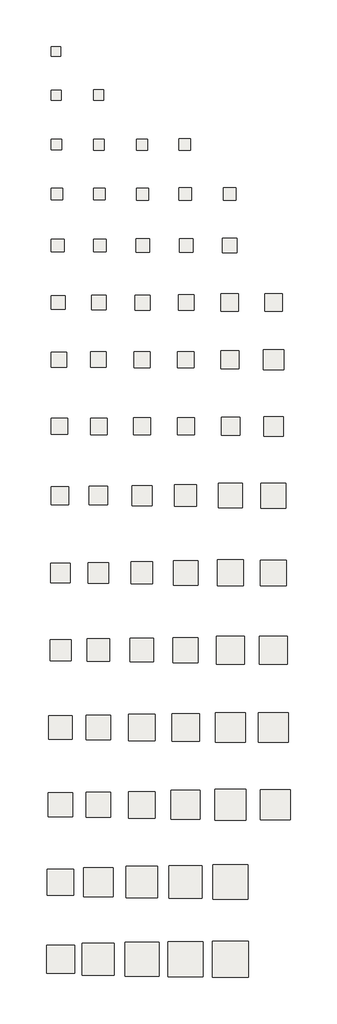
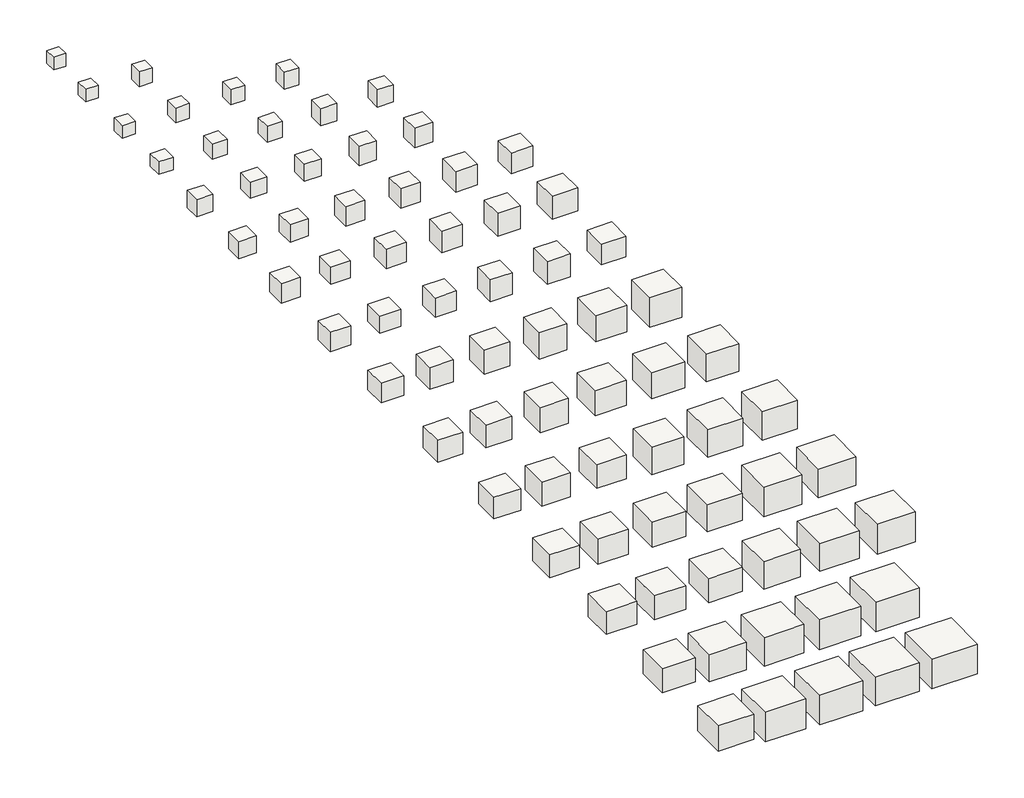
# One storey: 75 slabs.
"""IFC4 building model written with IfcOpenShell, lengths in millimetres."""

from ifc_helpers import new_model, si_unit, frame, origin, place, context, project, spatial, polyline, outline, extrude, transform, mapped, element, save
from components import sh151h_05a4cf6c, sh171h_3b6ec63e, sh172h_2c039d42, sh201h_967e3658, sh202h_af07e2a0, sh203h_214d91b7, sh204h_f7182780, sh251h_bfb0af9b, sh252h_e3db69f3, sh253h_e0c43a48, sh254h_d4b0e25d, sh255h_3842edd7, sh301h_2fa1b9bb, sh302h_2cdbd7e4, sh303h_fd9c4a22, sh304h_efbd32dc, sh305h_3eef8231, sh351h_a3a2fe4a, sh352h_ad2891c9, sh353h_d71c6902, sh354h_d327f54e, sh355h_837e37f4, sh402h_118434c7, sh403h_8080ce22, sh404h_aaa08fc3, sh451h_d6b55bf2, sh452h_b81ecc12, sh453h_2a0722a9, sh454h_7828ca22, sh455h_6269cbd8, sh456h_0ef26143, sh551h_472f291d, sh601h_b4ec754e, sh651h_6f82ec02, sh701h_66dc8db6, sh751h_26a283a2, sh801h_a61c9dea

model = new_model("IFC4")

# Units and contexts
model_context = context("Model", 3, world=origin())
ifc_project = project(units=[si_unit("LENGTHUNIT", "METRE", prefix="MILLI")], contexts=[model_context])

# Site, building, storey
site = spatial("IfcSite", under=ifc_project)
building = spatial("IfcBuilding", under=site)
storey = spatial("IfcBuildingStorey", under=building, Name="レベル 1", Elevation=0.0)

# Slabs
placement = place(None, origin())
sh151h_shape = sh151h_05a4cf6c(model_context)
element("IfcSlab", 1, ObjectType="柱形_SH : SH151H", at=placement, inside=storey, context=model_context, shape_type="MappedRepresentation", body=[
    mapped(sh151h_shape, transform((-18374.1210172, 22289.5887732, 0.0), x_axis=(1.0, 0.0, 0.0), y_axis=(0.0, 1.0, 0.0), z_axis=(0.0, 0.0, 1.0))),
])
sh171h_shape = sh171h_3b6ec63e(model_context)
element("IfcSlab", 2, ObjectType="柱形_SH : SH171H", at=placement, inside=storey, context=model_context, shape_type="MappedRepresentation", body=[
    mapped(sh171h_shape, transform((-18364.1210172, 19989.5887732, 0.0), x_axis=(1.0, 0.0, 0.0), y_axis=(0.0, 1.0, 0.0), z_axis=(0.0, 0.0, 1.0))),
])
sh172h_shape = sh172h_2c039d42(model_context)
element("IfcSlab", 3, ObjectType="柱形_SH : SH172H", at=placement, inside=storey, context=model_context, shape_type="MappedRepresentation", body=[
    mapped(sh172h_shape, transform((-16140.7168251, 19989.5887732, 0.0), x_axis=(1.0, 0.0, 0.0), y_axis=(0.0, 1.0, 0.0), z_axis=(0.0, 0.0, 1.0))),
])
sh201h_shape = sh201h_967e3658(model_context)
element("IfcSlab", 4, ObjectType="柱形_SH : SH201H", at=placement, inside=storey, context=model_context, shape_type="MappedRepresentation", body=[
    mapped(sh201h_shape, transform((-18349.1210172, 17389.5887732, 0.0), x_axis=(1.0, 0.0, 0.0), y_axis=(0.0, 1.0, 0.0), z_axis=(0.0, 0.0, 1.0))),
])
sh202h_shape = sh202h_af07e2a0(model_context)
element("IfcSlab", 5, ObjectType="柱形_SH : SH202H", at=placement, inside=storey, context=model_context, shape_type="MappedRepresentation", body=[
    mapped(sh202h_shape, transform((-16125.7168251, 17389.5887732, 0.0), x_axis=(1.0, 0.0, 0.0), y_axis=(0.0, 1.0, 0.0), z_axis=(0.0, 0.0, 1.0))),
])
sh203h_shape = sh203h_214d91b7(model_context)
element("IfcSlab", 6, ObjectType="柱形_SH : SH203H", at=placement, inside=storey, context=model_context, shape_type="MappedRepresentation", body=[
    mapped(sh203h_shape, transform((-13842.3126329, 17389.5887732, 0.0), x_axis=(1.0, 0.0, 0.0), y_axis=(0.0, 1.0, 0.0), z_axis=(0.0, 0.0, 1.0))),
])
sh204h_shape = sh204h_f7182780(model_context)
element("IfcSlab", 7, ObjectType="柱形_SH : SH204H", at=placement, inside=storey, context=model_context, shape_type="MappedRepresentation", body=[
    mapped(sh204h_shape, transform((-11608.9084407, 17389.5887732, 0.0), x_axis=(1.0, 0.0, 0.0), y_axis=(0.0, 1.0, 0.0), z_axis=(0.0, 0.0, 1.0))),
])
sh251h_shape = sh251h_bfb0af9b(model_context)
element("IfcSlab", 8, ObjectType="柱形_SH : SH251H", at=placement, inside=storey, context=model_context, shape_type="MappedRepresentation", body=[
    mapped(sh251h_shape, transform((-18324.1210172, 14789.5887732, 0.0), x_axis=(1.0, 0.0, 0.0), y_axis=(0.0, 1.0, 0.0), z_axis=(0.0, 0.0, 1.0))),
])
sh252h_shape = sh252h_e3db69f3(model_context)
element("IfcSlab", 9, ObjectType="柱形_SH : SH252H", at=placement, inside=storey, context=model_context, shape_type="MappedRepresentation", body=[
    mapped(sh252h_shape, transform((-16100.7168251, 14789.5887732, 0.0), x_axis=(1.0, 0.0, 0.0), y_axis=(0.0, 1.0, 0.0), z_axis=(0.0, 0.0, 1.0))),
])
sh253h_shape = sh253h_e0c43a48(model_context)
element("IfcSlab", 10, ObjectType="柱形_SH : SH253H", at=placement, inside=storey, context=model_context, shape_type="MappedRepresentation", body=[
    mapped(sh253h_shape, transform((-13817.3126329, 14789.5887732, 0.0), x_axis=(1.0, 0.0, 0.0), y_axis=(0.0, 1.0, 0.0), z_axis=(0.0, 0.0, 1.0))),
])
sh254h_shape = sh254h_d4b0e25d(model_context)
element("IfcSlab", 11, ObjectType="柱形_SH : SH254H", at=placement, inside=storey, context=model_context, shape_type="MappedRepresentation", body=[
    mapped(sh254h_shape, transform((-11583.9084407, 14789.5887732, 0.0), x_axis=(1.0, 0.0, 0.0), y_axis=(0.0, 1.0, 0.0), z_axis=(0.0, 0.0, 1.0))),
])
sh255h_shape = sh255h_3842edd7(model_context)
element("IfcSlab", 12, ObjectType="柱形_SH : SH255H", at=placement, inside=storey, context=model_context, shape_type="MappedRepresentation", body=[
    mapped(sh255h_shape, transform((-9240.5042486, 14789.5887732, 0.0), x_axis=(1.0, 0.0, 0.0), y_axis=(0.0, 1.0, 0.0), z_axis=(0.0, 0.0, 1.0))),
])
sh301h_shape = sh301h_2fa1b9bb(model_context)
element("IfcSlab", 13, ObjectType="柱形_SH : SH301H", at=placement, inside=storey, context=model_context, shape_type="MappedRepresentation", body=[
    mapped(sh301h_shape, transform((-18289.1210172, 12089.5887732, 0.0), x_axis=(1.0, 0.0, 0.0), y_axis=(0.0, 1.0, 0.0), z_axis=(0.0, 0.0, 1.0))),
])
sh302h_shape = sh302h_2cdbd7e4(model_context)
element("IfcSlab", 14, ObjectType="柱形_SH : SH302H", at=placement, inside=storey, context=model_context, shape_type="MappedRepresentation", body=[
    mapped(sh302h_shape, transform((-16070.7168251, 12089.5887732, 0.0), x_axis=(1.0, 0.0, 0.0), y_axis=(0.0, 1.0, 0.0), z_axis=(0.0, 0.0, 1.0))),
])
sh303h_shape = sh303h_fd9c4a22(model_context)
element("IfcSlab", 15, ObjectType="柱形_SH : SH303H", at=placement, inside=storey, context=model_context, shape_type="MappedRepresentation", body=[
    mapped(sh303h_shape, transform((-13817.3126329, 12089.5887732, 0.0), x_axis=(1.0, 0.0, 0.0), y_axis=(0.0, 1.0, 0.0), z_axis=(0.0, 0.0, 1.0))),
])
sh304h_shape = sh304h_efbd32dc(model_context)
element("IfcSlab", 16, ObjectType="柱形_SH : SH304H", at=placement, inside=storey, context=model_context, shape_type="MappedRepresentation", body=[
    mapped(sh304h_shape, transform((-11536.4084407, 12089.5887732, 0.0), x_axis=(1.0, 0.0, 0.0), y_axis=(0.0, 1.0, 0.0), z_axis=(0.0, 0.0, 1.0))),
])
sh305h_shape = sh305h_3eef8231(model_context)
element("IfcSlab", 17, ObjectType="柱形_SH : SH305H", at=placement, inside=storey, context=model_context, shape_type="MappedRepresentation", body=[
    mapped(sh305h_shape, transform((-9236.4084407, 12089.5887732, 0.0), x_axis=(1.0, 0.0, 0.0), y_axis=(0.0, 1.0, 0.0), z_axis=(0.0, 0.0, 1.0))),
])
sh351h_shape = sh351h_a3a2fe4a(model_context)
element("IfcSlab", 18, ObjectType="柱形_SH : SH351H", at=placement, inside=storey, context=model_context, shape_type="MappedRepresentation", body=[
    mapped(sh351h_shape, transform((-18264.1210172, 9089.5887732, 0.0), x_axis=(1.0, 0.0, 0.0), y_axis=(0.0, 1.0, 0.0), z_axis=(0.0, 0.0, 1.0))),
])
sh352h_shape = sh352h_ad2891c9(model_context)
element("IfcSlab", 19, ObjectType="柱形_SH : SH352H", at=placement, inside=storey, context=model_context, shape_type="MappedRepresentation", body=[
    mapped(sh352h_shape, transform((-16130.7168251, 9089.5887732, 0.0), x_axis=(1.0, 0.0, 0.0), y_axis=(0.0, 1.0, 0.0), z_axis=(0.0, 0.0, 1.0))),
])
sh353h_shape = sh353h_d71c6902(model_context)
element("IfcSlab", 20, ObjectType="柱形_SH : SH353H", at=placement, inside=storey, context=model_context, shape_type="MappedRepresentation", body=[
    mapped(sh353h_shape, transform((-13817.3126329, 9089.5887732, 0.0), x_axis=(1.0, 0.0, 0.0), y_axis=(0.0, 1.0, 0.0), z_axis=(0.0, 0.0, 1.0))),
])
sh354h_shape = sh354h_d327f54e(model_context)
element("IfcSlab", 21, ObjectType="柱形_SH : SH354H", at=placement, inside=storey, context=model_context, shape_type="MappedRepresentation", body=[
    mapped(sh354h_shape, transform((-11536.4084407, 9089.5887732, 0.0), x_axis=(1.0, 0.0, 0.0), y_axis=(0.0, 1.0, 0.0), z_axis=(0.0, 0.0, 1.0))),
])
sh355h_shape = sh355h_837e37f4(model_context)
element("IfcSlab", 22, ObjectType="柱形_SH : SH355H", at=placement, inside=storey, context=model_context, shape_type="MappedRepresentation", body=[
    mapped(sh355h_shape, transform((-9236.4084407, 9089.5887732, 0.0), x_axis=(1.0, 0.0, 0.0), y_axis=(0.0, 1.0, 0.0), z_axis=(0.0, 0.0, 1.0))),
])
element("IfcSlab", 23, ObjectType="柱形_SH : SH356H", at=placement, inside=storey, context=model_context, shape_type="MappedRepresentation", body=[
    mapped(sh355h_shape, transform((-6936.4084407, 9089.5887732, 0.0), x_axis=(1.0, 0.0, 0.0), y_axis=(0.0, 1.0, 0.0), z_axis=(0.0, 0.0, 1.0))),
])
element("IfcSlab", 24, ObjectType="柱形_SH : SH401H", at=placement, inside=storey, context=model_context, shape_type="SweptSolid", body=[
    extrude(outline(polyline([(-17826.0106955, 6489.5887732), (-17826.0106955, 5689.5887732), (-18626.0106955, 5689.5887732), (-18626.0106955, 6489.5887732), (-17826.0106955, 6489.5887732)])), frame((0.0, 0.0, -850.0), z_axis=(0.0, 0.0, 1.0), x_axis=(1.0, 0.0, 0.0)), (0.0, 0.0, 1.0), 850.0),
])
sh402h_shape = sh402h_118434c7(model_context)
element("IfcSlab", 25, ObjectType="柱形_SH : SH402H", at=placement, inside=storey, context=model_context, shape_type="MappedRepresentation", body=[
    mapped(sh402h_shape, transform((-16159.2265438, 6089.5887732, 0.0), x_axis=(1.0, 0.0, 0.0), y_axis=(0.0, 1.0, 0.0), z_axis=(0.0, 0.0, 1.0))),
])
sh403h_shape = sh403h_8080ce22(model_context)
element("IfcSlab", 26, ObjectType="柱形_SH : SH403H", at=placement, inside=storey, context=model_context, shape_type="MappedRepresentation", body=[
    mapped(sh403h_shape, transform((-13859.2265438, 6089.5887732, 0.0), x_axis=(1.0, 0.0, 0.0), y_axis=(0.0, 1.0, 0.0), z_axis=(0.0, 0.0, 1.0))),
])
sh404h_shape = sh404h_aaa08fc3(model_context)
element("IfcSlab", 27, ObjectType="柱形_SH : SH404H", at=placement, inside=storey, context=model_context, shape_type="MappedRepresentation", body=[
    mapped(sh404h_shape, transform((-11559.2265438, 6089.5887732, 0.0), x_axis=(1.0, 0.0, 0.0), y_axis=(0.0, 1.0, 0.0), z_axis=(0.0, 0.0, 1.0))),
])
element("IfcSlab", 28, ObjectType="柱形_SH : SH405H", at=placement, inside=storey, context=model_context, shape_type="SweptSolid", body=[
    extrude(outline(polyline([(-8749.2265438, 6559.5887732), (-8749.2265438, 5619.5887732), (-9689.2265438, 5619.5887732), (-9689.2265438, 6559.5887732), (-8749.2265438, 6559.5887732)])), frame((0.0, 0.0, -1000.0), z_axis=(0.0, 0.0, 1.0), x_axis=(1.0, 0.0, 0.0)), (0.0, 0.0, 1.0), 1000.0),
])
element("IfcSlab", 29, ObjectType="柱形_SH : SH406H", at=placement, inside=storey, context=model_context, shape_type="SweptSolid", body=[
    extrude(outline(polyline([(-6401.2999676, 6619.5887732), (-6401.2999676, 5559.5887732), (-7461.2999676, 5559.5887732), (-7461.2999676, 6619.5887732), (-6401.2999676, 6619.5887732)])), frame((0.0, 0.0, -1000.0), z_axis=(0.0, 0.0, 1.0), x_axis=(1.0, 0.0, 0.0)), (0.0, 0.0, 1.0), 1000.0),
])
sh451h_shape = sh451h_d6b55bf2(model_context)
element("IfcSlab", 30, ObjectType="柱形_SH : SH451H", at=placement, inside=storey, context=model_context, shape_type="MappedRepresentation", body=[
    mapped(sh451h_shape, transform((-18199.1210172, 2589.5887732, 0.0), x_axis=(1.0, 0.0, 0.0), y_axis=(0.0, 1.0, 0.0), z_axis=(0.0, 0.0, 1.0))),
])
sh452h_shape = sh452h_b81ecc12(model_context)
element("IfcSlab", 31, ObjectType="柱形_SH : SH452H", at=placement, inside=storey, context=model_context, shape_type="MappedRepresentation", body=[
    mapped(sh452h_shape, transform((-16132.3368655, 2589.5887732, 0.0), x_axis=(1.0, 0.0, 0.0), y_axis=(0.0, 1.0, 0.0), z_axis=(0.0, 0.0, 1.0))),
])
sh453h_shape = sh453h_2a0722a9(model_context)
element("IfcSlab", 32, ObjectType="柱形_SH : SH453H", at=placement, inside=storey, context=model_context, shape_type="MappedRepresentation", body=[
    mapped(sh453h_shape, transform((-13844.2265438, 2589.5887732, 0.0), x_axis=(1.0, 0.0, 0.0), y_axis=(0.0, 1.0, 0.0), z_axis=(0.0, 0.0, 1.0))),
])
sh454h_shape = sh454h_7828ca22(model_context)
element("IfcSlab", 33, ObjectType="柱形_SH : SH454H", at=placement, inside=storey, context=model_context, shape_type="MappedRepresentation", body=[
    mapped(sh454h_shape, transform((-11544.2265438, 2589.5887732, 0.0), x_axis=(1.0, 0.0, 0.0), y_axis=(0.0, 1.0, 0.0), z_axis=(0.0, 0.0, 1.0))),
])
sh455h_shape = sh455h_6269cbd8(model_context)
element("IfcSlab", 34, ObjectType="柱形_SH : SH455H", at=placement, inside=storey, context=model_context, shape_type="MappedRepresentation", body=[
    mapped(sh455h_shape, transform((-9184.2265438, 2589.5887732, 0.0), x_axis=(1.0, 0.0, 0.0), y_axis=(0.0, 1.0, 0.0), z_axis=(0.0, 0.0, 1.0))),
])
sh456h_shape = sh456h_0ef26143(model_context)
element("IfcSlab", 35, ObjectType="柱形_SH : SH456H", at=placement, inside=storey, context=model_context, shape_type="MappedRepresentation", body=[
    mapped(sh456h_shape, transform((-6924.2265438, 2589.5887732, 0.0), x_axis=(1.0, 0.0, 0.0), y_axis=(0.0, 1.0, 0.0), z_axis=(0.0, 0.0, 1.0))),
])
element("IfcSlab", 36, ObjectType="柱形_SH : SH501H", at=placement, inside=storey, context=model_context, shape_type="SweptSolid", body=[
    extrude(outline(polyline([(-17704.1210172, -580.4112268), (-17704.1210172, -1520.4112268), (-18644.1210172, -1520.4112268), (-18644.1210172, -580.4112268), (-17704.1210172, -580.4112268)])), frame((0.0, 0.0, -850.0), z_axis=(0.0, 0.0, 1.0), x_axis=(1.0, 0.0, 0.0)), (0.0, 0.0, 1.0), 850.0),
])
element("IfcSlab", 37, ObjectType="柱形_SH : SH502H", at=placement, inside=storey, context=model_context, shape_type="SweptSolid", body=[
    extrude(outline(polyline([(-15665.8055027, -565.4112268), (-15665.8055027, -1535.4112268), (-16635.8055027, -1535.4112268), (-16635.8055027, -565.4112268), (-15665.8055027, -565.4112268)])), frame((0.0, 0.0, -950.0), z_axis=(0.0, 0.0, 1.0), x_axis=(1.0, 0.0, 0.0)), (0.0, 0.0, 1.0), 950.0),
])
element("IfcSlab", 38, ObjectType="柱形_SH : SH503H", at=placement, inside=storey, context=model_context, shape_type="SweptSolid", body=[
    extrude(outline(polyline([(-13337.695181, -525.4112268), (-13337.695181, -1575.4112268), (-14387.695181, -1575.4112268), (-14387.695181, -525.4112268), (-13337.695181, -525.4112268)])), frame((0.0, 0.0, -1050.0), z_axis=(0.0, 0.0, 1.0), x_axis=(1.0, 0.0, 0.0)), (0.0, 0.0, 1.0), 1050.0),
])
element("IfcSlab", 39, ObjectType="柱形_SH : SH504H", at=placement, inside=storey, context=model_context, shape_type="SweptSolid", body=[
    extrude(outline(polyline([(-10992.695181, -480.4112268), (-10992.695181, -1620.4112268), (-12132.695181, -1620.4112268), (-12132.695181, -480.4112268), (-10992.695181, -480.4112268)])), frame((0.0, 0.0, -1150.0), z_axis=(0.0, 0.0, 1.0), x_axis=(1.0, 0.0, 0.0)), (0.0, 0.0, 1.0), 1150.0),
])
element("IfcSlab", 40, ObjectType="柱形_SH : SH505H", at=placement, inside=storey, context=model_context, shape_type="SweptSolid", body=[
    extrude(outline(polyline([(-8562.695181, -410.4112268), (-8562.695181, -1690.4112268), (-9842.695181, -1690.4112268), (-9842.695181, -410.4112268), (-8562.695181, -410.4112268)])), frame((0.0, 0.0, -1150.0), z_axis=(0.0, 0.0, 1.0), x_axis=(1.0, 0.0, 0.0)), (0.0, 0.0, 1.0), 1150.0),
])
element("IfcSlab", 41, ObjectType="柱形_SH : SH506H", at=placement, inside=storey, context=model_context, shape_type="SweptSolid", body=[
    extrude(outline(polyline([(-6287.695181, -395.4112268), (-6287.695181, -1705.4112268), (-7597.695181, -1705.4112268), (-7597.695181, -395.4112268), (-6287.695181, -395.4112268)])), frame((0.0, 0.0, -1300.0), z_axis=(0.0, 0.0, 1.0), x_axis=(1.0, 0.0, 0.0)), (0.0, 0.0, 1.0), 1300.0),
])
sh551h_shape = sh551h_472f291d(model_context)
element("IfcSlab", 42, ObjectType="柱形_SH : SH551H", at=placement, inside=storey, context=model_context, shape_type="MappedRepresentation", body=[
    mapped(sh551h_shape, transform((-18144.1210172, -5110.4112268, 0.0), x_axis=(1.0, 0.0, 0.0), y_axis=(0.0, 1.0, 0.0), z_axis=(0.0, 0.0, 1.0))),
])
element("IfcSlab", 43, ObjectType="柱形_SH : SH552H", at=placement, inside=storey, context=model_context, shape_type="SweptSolid", body=[
    extrude(outline(polyline([(-15605.8055027, -4565.4112268), (-15605.8055027, -5655.4112268), (-16695.8055027, -5655.4112268), (-16695.8055027, -4565.4112268), (-15605.8055027, -4565.4112268)])), frame((0.0, 0.0, -1000.0), z_axis=(0.0, 0.0, 1.0), x_axis=(1.0, 0.0, 0.0)), (0.0, 0.0, 1.0), 1000.0),
])
element("IfcSlab", 44, ObjectType="柱形_SH : SH553H", at=placement, inside=storey, context=model_context, shape_type="SweptSolid", body=[
    extrude(outline(polyline([(-13287.695181, -4535.4112268), (-13287.695181, -5685.4112268), (-14437.695181, -5685.4112268), (-14437.695181, -4535.4112268), (-13287.695181, -4535.4112268)])), frame((0.0, 0.0, -1100.0), z_axis=(0.0, 0.0, 1.0), x_axis=(1.0, 0.0, 0.0)), (0.0, 0.0, 1.0), 1100.0),
])
element("IfcSlab", 45, ObjectType="柱形_SH : SH554H", at=placement, inside=storey, context=model_context, shape_type="SweptSolid", body=[
    extrude(outline(polyline([(-10922.695181, -4470.4112268), (-10922.695181, -5750.4112268), (-12202.695181, -5750.4112268), (-12202.695181, -4470.4112268), (-10922.695181, -4470.4112268)])), frame((0.0, 0.0, -1100.0), z_axis=(0.0, 0.0, 1.0), x_axis=(1.0, 0.0, 0.0)), (0.0, 0.0, 1.0), 1100.0),
])
element("IfcSlab", 46, ObjectType="柱形_SH : SH555H", at=placement, inside=storey, context=model_context, shape_type="SweptSolid", body=[
    extrude(outline(polyline([(-8522.695181, -4430.4112268), (-8522.695181, -5790.4112268), (-9882.695181, -5790.4112268), (-9882.695181, -4430.4112268), (-8522.695181, -4430.4112268)])), frame((0.0, 0.0, -1150.0), z_axis=(0.0, 0.0, 1.0), x_axis=(1.0, 0.0, 0.0)), (0.0, 0.0, 1.0), 1150.0),
])
element("IfcSlab", 47, ObjectType="柱形_SH : SH556H", at=placement, inside=storey, context=model_context, shape_type="SweptSolid", body=[
    extrude(outline(polyline([(-6267.695181, -4435.4112268), (-6267.695181, -5785.4112268), (-7617.695181, -5785.4112268), (-7617.695181, -4435.4112268), (-6267.695181, -4435.4112268)])), frame((0.0, 0.0, -1200.0), z_axis=(0.0, 0.0, 1.0), x_axis=(1.0, 0.0, 0.0)), (0.0, 0.0, 1.0), 1200.0),
])
sh601h_shape = sh601h_b4ec754e(model_context)
element("IfcSlab", 48, ObjectType="柱形_SH : SH601H", at=placement, inside=storey, context=model_context, shape_type="MappedRepresentation", body=[
    mapped(sh601h_shape, transform((-18144.1210172, -9170.4112268, 0.0), x_axis=(1.0, 0.0, 0.0), y_axis=(0.0, 1.0, 0.0), z_axis=(0.0, 0.0, 1.0))),
])
element("IfcSlab", 49, ObjectType="柱形_SH : SH602H", at=placement, inside=storey, context=model_context, shape_type="SweptSolid", body=[
    extrude(outline(polyline([(-15560.8055027, -8580.4112268), (-15560.8055027, -9760.4112268), (-16740.8055027, -9760.4112268), (-16740.8055027, -8580.4112268), (-15560.8055027, -8580.4112268)])), frame((0.0, 0.0, -1050.0), z_axis=(0.0, 0.0, 1.0), x_axis=(1.0, 0.0, 0.0)), (0.0, 0.0, 1.0), 1050.0),
])
element("IfcSlab", 50, ObjectType="柱形_SH : SH603H", at=placement, inside=storey, context=model_context, shape_type="SweptSolid", body=[
    extrude(outline(polyline([(-13247.695181, -8555.4112268), (-13247.695181, -9785.4112268), (-14477.695181, -9785.4112268), (-14477.695181, -8555.4112268), (-13247.695181, -8555.4112268)])), frame((0.0, 0.0, -1050.0), z_axis=(0.0, 0.0, 1.0), x_axis=(1.0, 0.0, 0.0)), (0.0, 0.0, 1.0), 1050.0),
])
element("IfcSlab", 51, ObjectType="柱形_SH : SH604H", at=placement, inside=storey, context=model_context, shape_type="SweptSolid", body=[
    extrude(outline(polyline([(-10897.695181, -8505.4112268), (-10897.695181, -9835.4112268), (-12227.695181, -9835.4112268), (-12227.695181, -8505.4112268), (-10897.695181, -8505.4112268)])), frame((0.0, 0.0, -1200.0), z_axis=(0.0, 0.0, 1.0), x_axis=(1.0, 0.0, 0.0)), (0.0, 0.0, 1.0), 1200.0),
])
element("IfcSlab", 52, ObjectType="柱形_SH : SH605H", at=placement, inside=storey, context=model_context, shape_type="SweptSolid", body=[
    extrude(outline(polyline([(-8472.695181, -8440.4112268), (-8472.695181, -9900.4112268), (-9932.695181, -9900.4112268), (-9932.695181, -8440.4112268), (-8472.695181, -8440.4112268)])), frame((0.0, 0.0, -1200.0), z_axis=(0.0, 0.0, 1.0), x_axis=(1.0, 0.0, 0.0)), (0.0, 0.0, 1.0), 1200.0),
])
element("IfcSlab", 53, ObjectType="柱形_SH : SH606H", at=placement, inside=storey, context=model_context, shape_type="SweptSolid", body=[
    extrude(outline(polyline([(-6212.695181, -8440.4112268), (-6212.695181, -9900.4112268), (-7672.695181, -9900.4112268), (-7672.695181, -8440.4112268), (-6212.695181, -8440.4112268)])), frame((0.0, 0.0, -1250.0), z_axis=(0.0, 0.0, 1.0), x_axis=(1.0, 0.0, 0.0)), (0.0, 0.0, 1.0), 1250.0),
])
sh651h_shape = sh651h_6f82ec02(model_context)
element("IfcSlab", 54, ObjectType="柱形_SH : SH651H", at=placement, inside=storey, context=model_context, shape_type="MappedRepresentation", body=[
    mapped(sh651h_shape, transform((-18144.1210172, -13230.4112268, 0.0), x_axis=(1.0, 0.0, 0.0), y_axis=(0.0, 1.0, 0.0), z_axis=(0.0, 0.0, 1.0))),
])
element("IfcSlab", 55, ObjectType="柱形_SH : SH652H", at=placement, inside=storey, context=model_context, shape_type="SweptSolid", body=[
    extrude(outline(polyline([(-15515.8055027, -12595.4112268), (-15515.8055027, -13865.4112268), (-16785.8055027, -13865.4112268), (-16785.8055027, -12595.4112268), (-15515.8055027, -12595.4112268)])), frame((0.0, 0.0, -1100.0), z_axis=(0.0, 0.0, 1.0), x_axis=(1.0, 0.0, 0.0)), (0.0, 0.0, 1.0), 1100.0),
])
element("IfcSlab", 56, ObjectType="柱形_SH : SH653H", at=placement, inside=storey, context=model_context, shape_type="SweptSolid", body=[
    extrude(outline(polyline([(-13172.695181, -12540.4112268), (-13172.695181, -13920.4112268), (-14552.695181, -13920.4112268), (-14552.695181, -12540.4112268), (-13172.695181, -12540.4112268)])), frame((0.0, 0.0, -1100.0), z_axis=(0.0, 0.0, 1.0), x_axis=(1.0, 0.0, 0.0)), (0.0, 0.0, 1.0), 1100.0),
])
element("IfcSlab", 57, ObjectType="柱形_SH : SH654H", at=placement, inside=storey, context=model_context, shape_type="SweptSolid", body=[
    extrude(outline(polyline([(-10842.695181, -12510.4112268), (-10842.695181, -13950.4112268), (-12282.695181, -13950.4112268), (-12282.695181, -12510.4112268), (-10842.695181, -12510.4112268)])), frame((0.0, 0.0, -1200.0), z_axis=(0.0, 0.0, 1.0), x_axis=(1.0, 0.0, 0.0)), (0.0, 0.0, 1.0), 1200.0),
])
element("IfcSlab", 58, ObjectType="柱形_SH : SH655H", at=placement, inside=storey, context=model_context, shape_type="SweptSolid", body=[
    extrude(outline(polyline([(-8417.695181, -12445.4112268), (-8417.695181, -14015.4112268), (-9987.695181, -14015.4112268), (-9987.695181, -12445.4112268), (-8417.695181, -12445.4112268)])), frame((0.0, 0.0, -1300.0), z_axis=(0.0, 0.0, 1.0), x_axis=(1.0, 0.0, 0.0)), (0.0, 0.0, 1.0), 1300.0),
])
element("IfcSlab", 59, ObjectType="柱形_SH : SH656H", at=placement, inside=storey, context=model_context, shape_type="SweptSolid", body=[
    extrude(outline(polyline([(-6162.695181, -12450.4112268), (-6162.695181, -14010.4112268), (-7722.695181, -14010.4112268), (-7722.695181, -12450.4112268), (-6162.695181, -12450.4112268)])), frame((0.0, 0.0, -1250.0), z_axis=(0.0, 0.0, 1.0), x_axis=(1.0, 0.0, 0.0)), (0.0, 0.0, 1.0), 1250.0),
])
sh701h_shape = sh701h_66dc8db6(model_context)
element("IfcSlab", 60, ObjectType="柱形_SH : SH701H", at=placement, inside=storey, context=model_context, shape_type="MappedRepresentation", body=[
    mapped(sh701h_shape, transform((-18144.1210172, -17290.4112268, 0.0), x_axis=(1.0, 0.0, 0.0), y_axis=(0.0, 1.0, 0.0), z_axis=(0.0, 0.0, 1.0))),
])
element("IfcSlab", 61, ObjectType="柱形_SH : SH702H", at=placement, inside=storey, context=model_context, shape_type="SweptSolid", body=[
    extrude(outline(polyline([(-15495.8055027, -16635.4112268), (-15495.8055027, -17945.4112268), (-16805.8055027, -17945.4112268), (-16805.8055027, -16635.4112268), (-15495.8055027, -16635.4112268)])), frame((0.0, 0.0, -1050.0), z_axis=(0.0, 0.0, 1.0), x_axis=(1.0, 0.0, 0.0)), (0.0, 0.0, 1.0), 1050.0),
])
element("IfcSlab", 62, ObjectType="柱形_SH : SH703H", at=placement, inside=storey, context=model_context, shape_type="SweptSolid", body=[
    extrude(outline(polyline([(-13167.695181, -16595.4112268), (-13167.695181, -17985.4112268), (-14557.695181, -17985.4112268), (-14557.695181, -16595.4112268), (-13167.695181, -16595.4112268)])), frame((0.0, 0.0, -1050.0), z_axis=(0.0, 0.0, 1.0), x_axis=(1.0, 0.0, 0.0)), (0.0, 0.0, 1.0), 1050.0),
])
element("IfcSlab", 63, ObjectType="柱形_SH : SH704H", at=placement, inside=storey, context=model_context, shape_type="SweptSolid", body=[
    extrude(outline(polyline([(-10802.695181, -16530.4112268), (-10802.695181, -18050.4112268), (-12322.695181, -18050.4112268), (-12322.695181, -16530.4112268), (-10802.695181, -16530.4112268)])), frame((0.0, 0.0, -1200.0), z_axis=(0.0, 0.0, 1.0), x_axis=(1.0, 0.0, 0.0)), (0.0, 0.0, 1.0), 1200.0),
])
element("IfcSlab", 64, ObjectType="柱形_SH : SH705H", at=placement, inside=storey, context=model_context, shape_type="SweptSolid", body=[
    extrude(outline(polyline([(-8387.695181, -16475.4112268), (-8387.695181, -18105.4112268), (-10017.695181, -18105.4112268), (-10017.695181, -16475.4112268), (-8387.695181, -16475.4112268)])), frame((0.0, 0.0, -1200.0), z_axis=(0.0, 0.0, 1.0), x_axis=(1.0, 0.0, 0.0)), (0.0, 0.0, 1.0), 1200.0),
])
element("IfcSlab", 65, ObjectType="柱形_SH : SH706H", at=placement, inside=storey, context=model_context, shape_type="SweptSolid", body=[
    extrude(outline(polyline([(-6057.695181, -16505.4112268), (-6057.695181, -18075.4112268), (-7627.695181, -18075.4112268), (-7627.695181, -16505.4112268), (-6057.695181, -16505.4112268)])), frame((0.0, 0.0, -1300.0), z_axis=(0.0, 0.0, 1.0), x_axis=(1.0, 0.0, 0.0)), (0.0, 0.0, 1.0), 1300.0),
])
sh751h_shape = sh751h_26a283a2(model_context)
element("IfcSlab", 66, ObjectType="柱形_SH : SH751H", at=placement, inside=storey, context=model_context, shape_type="MappedRepresentation", body=[
    mapped(sh751h_shape, transform((-18144.1210172, -21350.4112268, 0.0), x_axis=(1.0, 0.0, 0.0), y_axis=(0.0, 1.0, 0.0), z_axis=(0.0, 0.0, 1.0))),
])
element("IfcSlab", 67, ObjectType="柱形_SH : SH752H", at=placement, inside=storey, context=model_context, shape_type="SweptSolid", body=[
    extrude(outline(polyline([(-15385.8055027, -20585.4112268), (-15385.8055027, -22115.4112268), (-16915.8055027, -22115.4112268), (-16915.8055027, -20585.4112268), (-15385.8055027, -20585.4112268)])), frame((0.0, 0.0, -1200.0), z_axis=(0.0, 0.0, 1.0), x_axis=(1.0, 0.0, 0.0)), (0.0, 0.0, 1.0), 1200.0),
])
element("IfcSlab", 68, ObjectType="柱形_SH : SH753H", at=placement, inside=storey, context=model_context, shape_type="SweptSolid", body=[
    extrude(outline(polyline([(-13037.695181, -20525.4112268), (-13037.695181, -22175.4112268), (-14687.695181, -22175.4112268), (-14687.695181, -20525.4112268), (-13037.695181, -20525.4112268)])), frame((0.0, 0.0, -1250.0), z_axis=(0.0, 0.0, 1.0), x_axis=(1.0, 0.0, 0.0)), (0.0, 0.0, 1.0), 1250.0),
])
element("IfcSlab", 69, ObjectType="柱形_SH : SH754H", at=placement, inside=storey, context=model_context, shape_type="SweptSolid", body=[
    extrude(outline(polyline([(-10702.695181, -20490.4112268), (-10702.695181, -22210.4112268), (-12422.695181, -22210.4112268), (-12422.695181, -20490.4112268), (-10702.695181, -20490.4112268)])), frame((0.0, 0.0, -1300.0), z_axis=(0.0, 0.0, 1.0), x_axis=(1.0, 0.0, 0.0)), (0.0, 0.0, 1.0), 1300.0),
])
element("IfcSlab", 70, ObjectType="柱形_SH : SH755H", at=placement, inside=storey, context=model_context, shape_type="SweptSolid", body=[
    extrude(outline(polyline([(-8292.695181, -20440.4112268), (-8292.695181, -22260.4112268), (-10112.695181, -22260.4112268), (-10112.695181, -20440.4112268), (-8292.695181, -20440.4112268)])), frame((0.0, 0.0, -1300.0), z_axis=(0.0, 0.0, 1.0), x_axis=(1.0, 0.0, 0.0)), (0.0, 0.0, 1.0), 1300.0),
])
sh801h_shape = sh801h_a61c9dea(model_context)
element("IfcSlab", 71, ObjectType="柱形_SH : SH801H", at=placement, inside=storey, context=model_context, shape_type="MappedRepresentation", body=[
    mapped(sh801h_shape, transform((-18144.1210172, -25410.4112268, 0.0), x_axis=(1.0, 0.0, 0.0), y_axis=(0.0, 1.0, 0.0), z_axis=(0.0, 0.0, 1.0))),
])
element("IfcSlab", 72, ObjectType="柱形_SH : SH802H", at=placement, inside=storey, context=model_context, shape_type="SweptSolid", body=[
    extrude(outline(polyline([(-15310.8055027, -24570.4112268), (-15310.8055027, -26250.4112268), (-16990.8055027, -26250.4112268), (-16990.8055027, -24570.4112268), (-15310.8055027, -24570.4112268)])), frame((0.0, 0.0, -1300.0), z_axis=(0.0, 0.0, 1.0), x_axis=(1.0, 0.0, 0.0)), (0.0, 0.0, 1.0), 1300.0),
])
element("IfcSlab", 73, ObjectType="柱形_SH : SH803H", at=placement, inside=storey, context=model_context, shape_type="SweptSolid", body=[
    extrude(outline(polyline([(-12967.695181, -24515.4112268), (-12967.695181, -26305.4112268), (-14757.695181, -26305.4112268), (-14757.695181, -24515.4112268), (-12967.695181, -24515.4112268)])), frame((0.0, 0.0, -1300.0), z_axis=(0.0, 0.0, 1.0), x_axis=(1.0, 0.0, 0.0)), (0.0, 0.0, 1.0), 1300.0),
])
element("IfcSlab", 74, ObjectType="柱形_SH : SH804H", at=placement, inside=storey, context=model_context, shape_type="SweptSolid", body=[
    extrude(outline(polyline([(-10642.695181, -24490.4112268), (-10642.695181, -26330.4112268), (-12482.695181, -26330.4112268), (-12482.695181, -24490.4112268), (-10642.695181, -24490.4112268)])), frame((0.0, 0.0, -1250.0), z_axis=(0.0, 0.0, 1.0), x_axis=(1.0, 0.0, 0.0)), (0.0, 0.0, 1.0), 1250.0),
])
element("IfcSlab", 75, ObjectType="柱形_SH : SH805H", at=placement, inside=storey, context=model_context, shape_type="SweptSolid", body=[
    extrude(outline(polyline([(-8252.695181, -24460.4112268), (-8252.695181, -26360.4112268), (-10152.695181, -26360.4112268), (-10152.695181, -24460.4112268), (-8252.695181, -24460.4112268)])), frame((0.0, 0.0, -1300.0), z_axis=(0.0, 0.0, 1.0), x_axis=(1.0, 0.0, 0.0)), (0.0, 0.0, 1.0), 1300.0),
])

save(model, "model.ifc")
